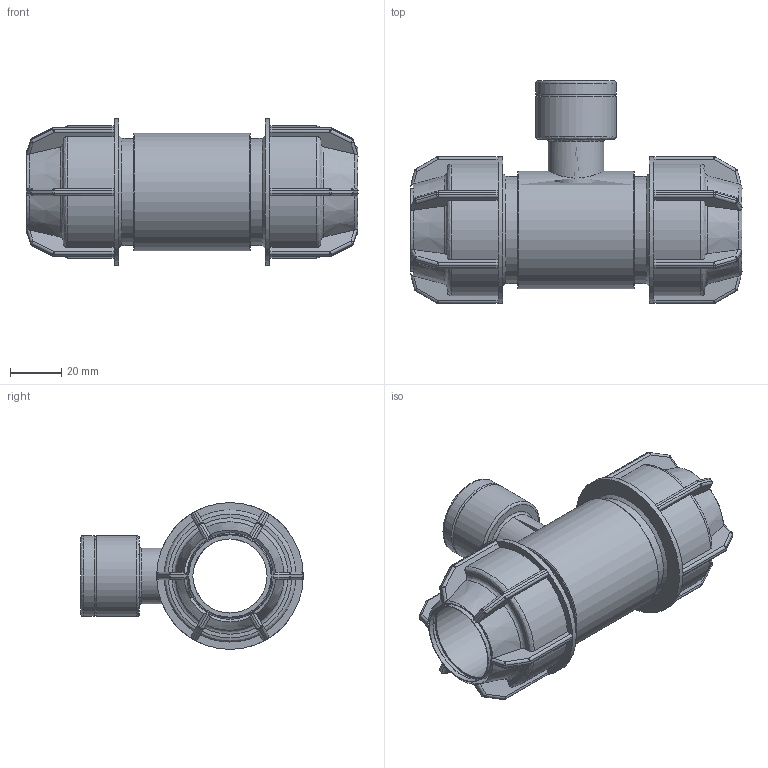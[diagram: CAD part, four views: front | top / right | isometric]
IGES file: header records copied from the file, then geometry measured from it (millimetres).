
Global section: file name: 041407032010.ipt; native system: Autodesk Inventor 2015; preprocessor: unknown; author: KIM; date: 20180409.130653; units: millimetre
Bounding box: 129 x 86.5 x 57 mm (x, y, z)
Volume: 133017.6 mm3; surface area: 46079 mm2
Topology: 1 solids, 1 shells, 420 faces, 1022 edges, 598 vertices
Faces by surface type: plane 201, cylinder 116, sphere 48, revolution 39, cone 16
Full cylindrical faces by diameter (mm): 21.705 x1, 31.352 x2, 41.6 x2, 45.76 x1, 57 x2
